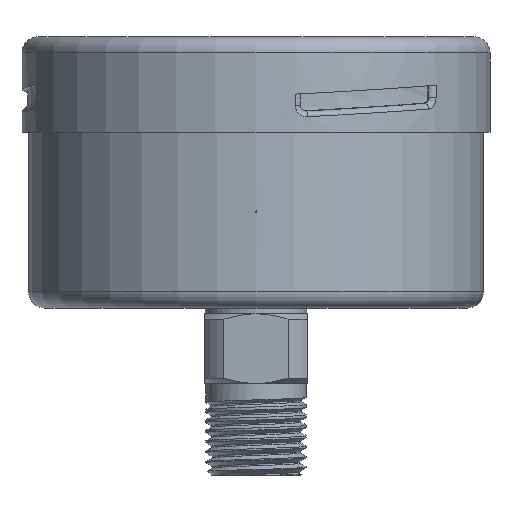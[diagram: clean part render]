
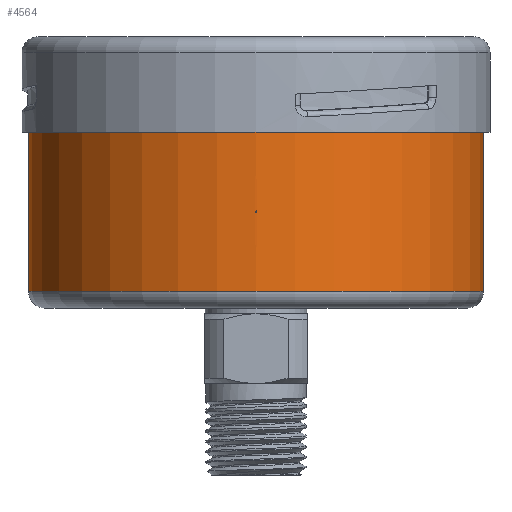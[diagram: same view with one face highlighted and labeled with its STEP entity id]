
A CAD part, front view. The second image highlights one B-rep face of the part: STEP entity #4564.
In plain terms, the highlighted cylindrical face has radius 31 mm (diameter 62 mm), a full revolution.
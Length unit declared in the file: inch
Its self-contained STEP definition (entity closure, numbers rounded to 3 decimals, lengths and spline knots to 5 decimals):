
#76=FACE_BOUND('',#1751,.T.);
#182=LINE('',#8405,#643);
#643=VECTOR('',#5345,1.22047);
#1076=CYLINDRICAL_SURFACE('',#4906,1.22047);
#1120=CIRCLE('',#4902,1.22047);
#1121=CIRCLE('',#4904,1.22047);
#1485=FACE_OUTER_BOUND('',#1750,.T.);
#1750=EDGE_LOOP('',(#3265,#3266,#3267,#3268));
#1751=EDGE_LOOP('',(#3269,#3270));
#2008=B_SPLINE_CURVE_WITH_KNOTS('',3,(#6325,#6326,#6327,#6328,#6329,#6330,
#6331,#6332,#6333,#6334,#6335,#6336,#6337,#6338,#6339,#6340,#6341,#6342,
#6343),.UNSPECIFIED.,.F.,.F.,(4,2,2,2,3,2,2,2,4),(0.05741,0.06219,
0.06697,0.07176,0.07654,0.08133,
0.08611,0.09089,0.09568),.UNSPECIFIED.);
#2009=B_SPLINE_CURVE_WITH_KNOTS('',3,(#6344,#6345,#6346,#6347,#6348,#6349,
#6350,#6351,#6352,#6353,#6354,#6355,#6356,#6357,#6358,#6359,#6360,#6361),
 .UNSPECIFIED.,.F.,.F.,(4,2,2,2,2,2,2,2,4),(0.01914,0.02392,
0.0287,0.03349,0.03827,0.04306,
0.04784,0.05262,0.05741),.UNSPECIFIED.);
#2063=VERTEX_POINT('',#6323);
#2064=VERTEX_POINT('',#6324);
#2128=VERTEX_POINT('',#8398);
#2129=VERTEX_POINT('',#8401);
#2469=EDGE_CURVE('',#2063,#2064,#2008,.T.);
#2470=EDGE_CURVE('',#2064,#2063,#2009,.T.);
#2569=EDGE_CURVE('',#2128,#2128,#1120,.T.);
#2570=EDGE_CURVE('',#2129,#2129,#1121,.T.);
#2572=EDGE_CURVE('',#2128,#2129,#182,.T.);
#3265=ORIENTED_EDGE('',*,*,#2569,.T.);
#3266=ORIENTED_EDGE('',*,*,#2572,.T.);
#3267=ORIENTED_EDGE('',*,*,#2570,.T.);
#3268=ORIENTED_EDGE('',*,*,#2572,.F.);
#3269=ORIENTED_EDGE('',*,*,#2470,.T.);
#3270=ORIENTED_EDGE('',*,*,#2469,.T.);
#4564=ADVANCED_FACE('',(#1485,#76),#1076,.T.);
#4902=AXIS2_PLACEMENT_3D('',#8399,#5335,#5336);
#4904=AXIS2_PLACEMENT_3D('',#8402,#5339,#5340);
#4906=AXIS2_PLACEMENT_3D('',#8404,#5343,#5344);
#5335=DIRECTION('center_axis',(0.,0.,-1.));
#5336=DIRECTION('ref_axis',(0.,1.,0.));
#5339=DIRECTION('center_axis',(0.,0.,1.));
#5340=DIRECTION('ref_axis',(1.,0.,0.));
#5343=DIRECTION('center_axis',(0.,0.,1.));
#5344=DIRECTION('ref_axis',(1.,0.,0.));
#5345=DIRECTION('',(0.,0.,-1.));
#6323=CARTESIAN_POINT('',(0.,-1.22047,0.51279));
#6324=CARTESIAN_POINT('',(0.,-1.22047,0.52279));
#6325=CARTESIAN_POINT('Ctrl Pts',(0.,-1.22047,
0.51279));
#6326=CARTESIAN_POINT('Ctrl Pts',(-0.00063,-1.22047,
0.51279));
#6327=CARTESIAN_POINT('Ctrl Pts',(-0.0013,-1.22047,
0.51292));
#6328=CARTESIAN_POINT('Ctrl Pts',(-0.00253,-1.22047,
0.51343));
#6329=CARTESIAN_POINT('Ctrl Pts',(-0.00309,-1.22047,
0.51381));
#6330=CARTESIAN_POINT('Ctrl Pts',(-0.00398,-1.22047,
0.5147));
#6331=CARTESIAN_POINT('Ctrl Pts',(-0.00436,-1.22046,
0.51526));
#6332=CARTESIAN_POINT('Ctrl Pts',(-0.00487,-1.22046,
0.5165));
#6333=CARTESIAN_POINT('Ctrl Pts',(-0.005,-1.22046,
0.51717));
#6334=CARTESIAN_POINT('Ctrl Pts',(-0.005,-1.22046,
0.51779));
#6335=CARTESIAN_POINT('Ctrl Pts',(-0.005,-1.22046,
0.51842));
#6336=CARTESIAN_POINT('Ctrl Pts',(-0.00487,-1.22046,
0.51909));
#6337=CARTESIAN_POINT('Ctrl Pts',(-0.00436,-1.22046,
0.52032));
#6338=CARTESIAN_POINT('Ctrl Pts',(-0.00398,-1.22047,
0.52088));
#6339=CARTESIAN_POINT('Ctrl Pts',(-0.00309,-1.22047,
0.52177));
#6340=CARTESIAN_POINT('Ctrl Pts',(-0.00253,-1.22047,
0.52216));
#6341=CARTESIAN_POINT('Ctrl Pts',(-0.0013,-1.22047,
0.52267));
#6342=CARTESIAN_POINT('Ctrl Pts',(-0.00063,-1.22047,
0.52279));
#6343=CARTESIAN_POINT('Ctrl Pts',(0.,-1.22047,
0.52279));
#6344=CARTESIAN_POINT('Ctrl Pts',(0.,-1.22047,
0.52279));
#6345=CARTESIAN_POINT('Ctrl Pts',(0.00063,-1.22047,
0.52279));
#6346=CARTESIAN_POINT('Ctrl Pts',(0.0013,-1.22047,
0.52267));
#6347=CARTESIAN_POINT('Ctrl Pts',(0.00253,-1.22047,
0.52216));
#6348=CARTESIAN_POINT('Ctrl Pts',(0.00309,-1.22047,
0.52177));
#6349=CARTESIAN_POINT('Ctrl Pts',(0.00398,-1.22047,
0.52088));
#6350=CARTESIAN_POINT('Ctrl Pts',(0.00436,-1.22046,
0.52032));
#6351=CARTESIAN_POINT('Ctrl Pts',(0.00487,-1.22046,
0.51909));
#6352=CARTESIAN_POINT('Ctrl Pts',(0.005,-1.22046,
0.51842));
#6353=CARTESIAN_POINT('Ctrl Pts',(0.005,-1.22046,
0.51717));
#6354=CARTESIAN_POINT('Ctrl Pts',(0.00487,-1.22046,
0.5165));
#6355=CARTESIAN_POINT('Ctrl Pts',(0.00436,-1.22046,
0.51526));
#6356=CARTESIAN_POINT('Ctrl Pts',(0.00398,-1.22047,
0.5147));
#6357=CARTESIAN_POINT('Ctrl Pts',(0.00309,-1.22047,
0.51381));
#6358=CARTESIAN_POINT('Ctrl Pts',(0.00253,-1.22047,
0.51343));
#6359=CARTESIAN_POINT('Ctrl Pts',(0.0013,-1.22047,
0.51292));
#6360=CARTESIAN_POINT('Ctrl Pts',(0.00063,-1.22047,
0.51279));
#6361=CARTESIAN_POINT('Ctrl Pts',(0.,-1.22047,
0.51279));
#8398=CARTESIAN_POINT('',(-1.22047,0.,0.94488));
#8399=CARTESIAN_POINT('Origin',(0.,0.,0.94488));
#8401=CARTESIAN_POINT('',(-1.22047,0.,0.09055));
#8402=CARTESIAN_POINT('Origin',(0.,0.,0.09055));
#8404=CARTESIAN_POINT('Origin',(0.,0.,0.));
#8405=CARTESIAN_POINT('',(-1.22047,0.,0.));
